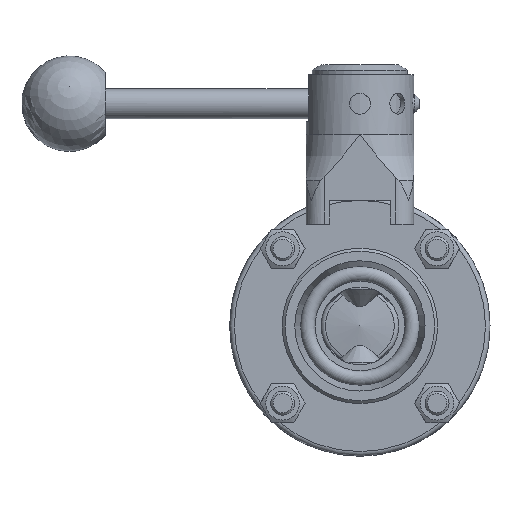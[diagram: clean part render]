
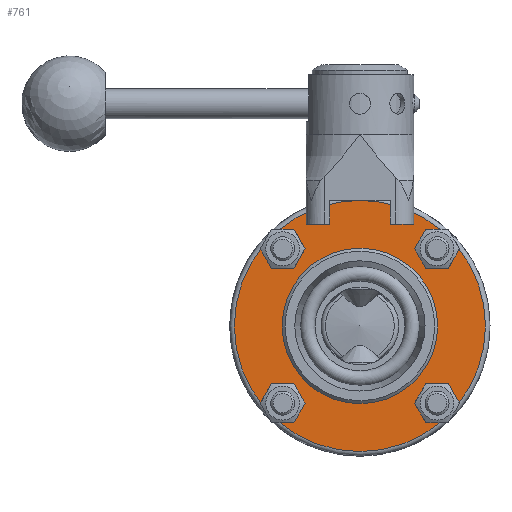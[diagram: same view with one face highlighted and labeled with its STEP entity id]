
A CAD part, left-side view. The second image highlights one B-rep face of the part: STEP entity #761.
In plain terms, the highlighted planar face has unit normal (-1, 0, 0) as drawn and (1, 0, 0) by its records, which use the part's own axes.
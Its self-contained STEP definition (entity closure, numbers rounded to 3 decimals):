
#160=CARTESIAN_POINT('',(-5.533,-11.408,0.0));
#161=VERTEX_POINT('',#160);
#162=CARTESIAN_POINT('',(-5.533,14.592,0.0));
#163=DIRECTION('',(-1.0,0.0,0.0));
#164=DIRECTION('',(0.0,-1.0,0.0));
#165=AXIS2_PLACEMENT_3D('',#162,#163,#164);
#166=CIRCLE('',#165,26.0);
#167=EDGE_CURVE('',#161,#161,#166,.T.);
#404=CARTESIAN_POINT('',(-5.533,-15.467,25.809));
#405=VERTEX_POINT('',#404);
#406=CARTESIAN_POINT('',(-5.533,-11.217,25.809));
#407=DIRECTION('',(-1.0,0.0,0.0));
#408=DIRECTION('',(0.0,1.0,0.0));
#409=AXIS2_PLACEMENT_3D('',#406,#407,#408);
#410=CIRCLE('',#409,4.25);
#411=EDGE_CURVE('',#405,#405,#410,.T.);
#424=CARTESIAN_POINT('',(-5.533,-11.217,-30.059));
#425=VERTEX_POINT('',#424);
#426=CARTESIAN_POINT('',(-5.533,-11.217,-25.809));
#427=DIRECTION('',(-1.0,0.0,0.0));
#428=DIRECTION('',(0.0,0.0,1.0));
#429=AXIS2_PLACEMENT_3D('',#426,#427,#428);
#430=CIRCLE('',#429,4.25);
#431=EDGE_CURVE('',#425,#425,#430,.T.);
#444=CARTESIAN_POINT('',(-5.533,44.651,-25.809));
#445=VERTEX_POINT('',#444);
#446=CARTESIAN_POINT('',(-5.533,40.401,-25.809));
#447=DIRECTION('',(-1.0,0.0,0.0));
#448=DIRECTION('',(0.0,-1.0,0.0));
#449=AXIS2_PLACEMENT_3D('',#446,#447,#448);
#450=CIRCLE('',#449,4.25);
#451=EDGE_CURVE('',#445,#445,#450,.T.);
#464=CARTESIAN_POINT('',(-5.533,40.401,30.059));
#465=VERTEX_POINT('',#464);
#466=CARTESIAN_POINT('',(-5.533,40.401,25.809));
#467=DIRECTION('',(-1.0,0.0,0.0));
#468=DIRECTION('',(0.0,0.0,-1.0));
#469=AXIS2_PLACEMENT_3D('',#466,#467,#468);
#470=CIRCLE('',#469,4.25);
#471=EDGE_CURVE('',#465,#465,#470,.T.);
#730=CARTESIAN_POINT('',(-5.533,-19.408,0.0));
#731=DIRECTION('',(1.0,0.0,0.0));
#732=DIRECTION('',(0.0,0.0,-1.0));
#733=AXIS2_PLACEMENT_3D('',#730,#731,#732);
#734=PLANE('',#733);
#735=CARTESIAN_POINT('',(-5.533,-27.408,0.0));
#736=VERTEX_POINT('',#735);
#737=CARTESIAN_POINT('',(-5.533,14.592,0.0));
#738=DIRECTION('',(-1.0,0.0,0.0));
#739=DIRECTION('',(0.0,-1.0,0.0));
#740=AXIS2_PLACEMENT_3D('',#737,#738,#739);
#741=CIRCLE('',#740,42.);
#742=EDGE_CURVE('',#736,#736,#741,.T.);
#743=ORIENTED_EDGE('',*,*,#742,.F.);
#744=EDGE_LOOP('',(#743));
#745=FACE_OUTER_BOUND('',#744,.T.);
#746=ORIENTED_EDGE('',*,*,#411,.T.);
#747=EDGE_LOOP('',(#746));
#748=FACE_BOUND('',#747,.T.);
#749=ORIENTED_EDGE('',*,*,#431,.T.);
#750=EDGE_LOOP('',(#749));
#751=FACE_BOUND('',#750,.T.);
#752=ORIENTED_EDGE('',*,*,#451,.T.);
#753=EDGE_LOOP('',(#752));
#754=FACE_BOUND('',#753,.T.);
#755=ORIENTED_EDGE('',*,*,#471,.T.);
#756=EDGE_LOOP('',(#755));
#757=FACE_BOUND('',#756,.T.);
#758=ORIENTED_EDGE('',*,*,#167,.T.);
#759=EDGE_LOOP('',(#758));
#760=FACE_BOUND('',#759,.T.);
#761=ADVANCED_FACE('',(#745,#748,#751,#754,#757,#760),#734,.T.);
